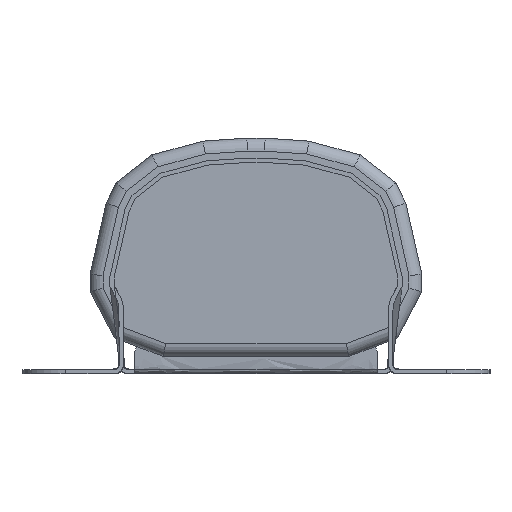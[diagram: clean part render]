
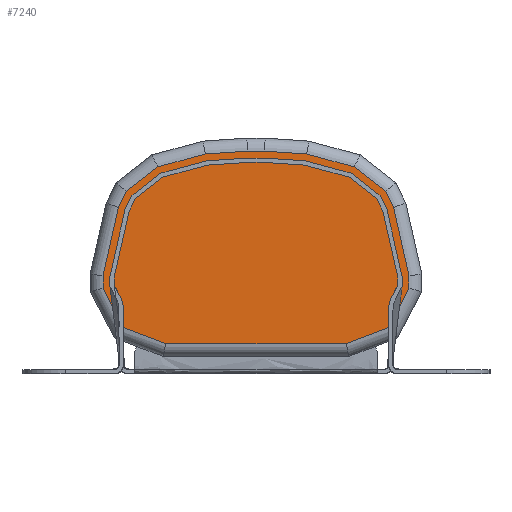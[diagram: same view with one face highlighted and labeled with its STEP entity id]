
A CAD part, left-side view. The second image highlights one B-rep face of the part: STEP entity #7240.
In plain terms, the highlighted planar face has unit normal (-1, 0, 0).
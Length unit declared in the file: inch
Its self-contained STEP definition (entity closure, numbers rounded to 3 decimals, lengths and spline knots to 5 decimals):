
#247 = CARTESIAN_POINT ( 'NONE',  ( -11.88976, -0.51143, 0.17618 ) ) ;
#277 = ORIENTED_EDGE ( 'NONE', *, *, #9996, .F. ) ;
#349 = ORIENTED_EDGE ( 'NONE', *, *, #10450, .F. ) ;
#375 = DIRECTION ( 'NONE',  ( 0., -0.965, 0.262 ) ) ;
#437 = CARTESIAN_POINT ( 'NONE',  ( -11.88976, -0.64642, 0.29602 ) ) ;
#532 = CARTESIAN_POINT ( 'NONE',  ( -11.88976, -0.69488, 0.38854 ) ) ;
#1177 = DIRECTION ( 'NONE',  ( 0., -0.22, 0.975 ) ) ;
#1185 = VERTEX_POINT ( 'NONE', #3811 ) ;
#1186 = VERTEX_POINT ( 'NONE', #11184 ) ;
#1292 = CARTESIAN_POINT ( 'NONE',  ( -11.88976, 0.64642, 0.29602 ) ) ;
#1331 = CARTESIAN_POINT ( 'NONE',  ( -11.88976, 0.65992, 0.60117 ) ) ;
#1666 = CARTESIAN_POINT ( 'NONE',  ( -11.88976, -0.34107, 0.96888 ) ) ;
#1867 = VERTEX_POINT ( 'NONE', #12075 ) ;
#1963 = LINE ( 'NONE', #8002, #14741 ) ;
#2033 = CARTESIAN_POINT ( 'NONE',  ( -11.88976, 0.58838, 0.83044 ) ) ;
#2260 = DIRECTION ( 'NONE',  ( 0., 0.464, 0.886 ) ) ;
#2353 = VECTOR ( 'NONE', #9060, 39.37008 ) ;
#2379 = ORIENTED_EDGE ( 'NONE', *, *, #11758, .F. ) ;
#2418 = ORIENTED_EDGE ( 'NONE', *, *, #14847, .F. ) ;
#2467 = EDGE_CURVE ( 'NONE', #10861, #1185, #12920, .T. ) ;
#2580 = EDGE_CURVE ( 'NONE', #1185, #5059, #14661, .T. ) ;
#2683 = DIRECTION ( 'NONE',  ( 0., 0., 1. ) ) ;
#2695 = CARTESIAN_POINT ( 'NONE',  ( -11.88976, 0.03945, 1.01181 ) ) ;
#2735 = LINE ( 'NONE', #437, #2353 ) ;
#2827 = CARTESIAN_POINT ( 'NONE',  ( -11.88976, -0.13684, 1.00524 ) ) ;
#2910 = VERTEX_POINT ( 'NONE', #5528 ) ;
#2913 = DIRECTION ( 'NONE',  ( 0., -0.965, -0.262 ) ) ;
#2917 = ORIENTED_EDGE ( 'NONE', *, *, #12073, .F. ) ;
#2964 = CARTESIAN_POINT ( 'NONE',  ( -11.88976, 0.41045, 0.1378 ) ) ;
#3042 = VECTOR ( 'NONE', #10428, 39.37008 ) ;
#3256 = CARTESIAN_POINT ( 'NONE',  ( -11.88976, 0.69488, 0.44618 ) ) ;
#3543 = EDGE_CURVE ( 'NONE', #8565, #14645, #12898, .T. ) ;
#3567 = ORIENTED_EDGE ( 'NONE', *, *, #12989, .F. ) ;
#3629 = DIRECTION ( 'NONE',  ( -1., 0., 0. ) ) ;
#3638 = VECTOR ( 'NONE', #2260, 39.37008 ) ;
#3811 = CARTESIAN_POINT ( 'NONE',  ( -11.88976, -0.23037, 0.99893 ) ) ;
#3847 = PLANE ( 'NONE',  #6024 ) ;
#3954 = VECTOR ( 'NONE', #9963, 39.37008 ) ;
#3966 = LINE ( 'NONE', #5657, #8011 ) ;
#3994 = LINE ( 'NONE', #4272, #6892 ) ;
#4092 = ORIENTED_EDGE ( 'NONE', *, *, #14752, .F. ) ;
#4272 = CARTESIAN_POINT ( 'NONE',  ( -11.88976, 0.60522, 0.79615 ) ) ;
#4274 = VECTOR ( 'NONE', #11588, 39.37008 ) ;
#4302 = DIRECTION ( 'NONE',  ( 0., -0.441, -0.898 ) ) ;
#4405 = CARTESIAN_POINT ( 'NONE',  ( -11.88976, -0.44609, 0.94037 ) ) ;
#4634 = EDGE_CURVE ( 'NONE', #14645, #13250, #10190, .T. ) ;
#4646 = LINE ( 'NONE', #6675, #4274 ) ;
#4790 = VECTOR ( 'NONE', #2913, 39.37008 ) ;
#4906 = CARTESIAN_POINT ( 'NONE',  ( -11.88976, -0.69488, 0.1378 ) ) ;
#5059 = VERTEX_POINT ( 'NONE', #4405 ) ;
#5190 = ORIENTED_EDGE ( 'NONE', *, *, #8604, .F. ) ;
#5409 = VECTOR ( 'NONE', #10191, 39.37008 ) ;
#5528 = CARTESIAN_POINT ( 'NONE',  ( -11.88976, 0.44609, 0.94037 ) ) ;
#5545 = EDGE_CURVE ( 'NONE', #13250, #13120, #14219, .T. ) ;
#5548 = VECTOR ( 'NONE', #1177, 39.37008 ) ;
#5657 = CARTESIAN_POINT ( 'NONE',  ( -11.88976, 0.51801, 0.8848 ) ) ;
#5675 = CARTESIAN_POINT ( 'NONE',  ( -11.88976, -0.69488, 0.41339 ) ) ;
#5961 = CARTESIAN_POINT ( 'NONE',  ( -11.88976, 0., 1.01181 ) ) ;
#6024 = AXIS2_PLACEMENT_3D ( 'NONE', #4906, #3629, #2683 ) ;
#6423 = ORIENTED_EDGE ( 'NONE', *, *, #7326, .F. ) ;
#6675 = CARTESIAN_POINT ( 'NONE',  ( -11.88976, 0., 0.1378 ) ) ;
#6720 = FACE_OUTER_BOUND ( 'NONE', #15620, .T. ) ;
#6892 = VECTOR ( 'NONE', #12902, 39.37008 ) ;
#6914 = VERTEX_POINT ( 'NONE', #15876 ) ;
#6929 = DIRECTION ( 'NONE',  ( 0., 0., -1. ) ) ;
#7027 = VECTOR ( 'NONE', #6929, 39.37008 ) ;
#7228 = LINE ( 'NONE', #7491, #3954 ) ;
#7240 = ADVANCED_FACE ( 'NONE', ( #6720 ), #3847, .T. ) ;
#7326 = EDGE_CURVE ( 'NONE', #13120, #1186, #15418, .T. ) ;
#7366 = ORIENTED_EDGE ( 'NONE', *, *, #4634, .F. ) ;
#7429 = LINE ( 'NONE', #5675, #7027 ) ;
#7443 = EDGE_CURVE ( 'NONE', #5059, #11408, #10971, .T. ) ;
#7448 = VECTOR ( 'NONE', #4302, 39.37008 ) ;
#7491 = CARTESIAN_POINT ( 'NONE',  ( -11.88976, -0.65992, 0.60117 ) ) ;
#7663 = VECTOR ( 'NONE', #8305, 39.37008 ) ;
#7817 = ORIENTED_EDGE ( 'NONE', *, *, #5545, .F. ) ;
#8002 = CARTESIAN_POINT ( 'NONE',  ( -11.88976, 0.13684, 1.00524 ) ) ;
#8011 = VECTOR ( 'NONE', #10641, 39.37008 ) ;
#8305 = DIRECTION ( 'NONE',  ( 0., 0., 1. ) ) ;
#8480 = VERTEX_POINT ( 'NONE', #2695 ) ;
#8550 = ORIENTED_EDGE ( 'NONE', *, *, #3543, .F. ) ;
#8559 = VECTOR ( 'NONE', #13378, 39.37008 ) ;
#8565 = VERTEX_POINT ( 'NONE', #2964 ) ;
#8593 = VERTEX_POINT ( 'NONE', #532 ) ;
#8604 = EDGE_CURVE ( 'NONE', #1186, #9486, #3994, .T. ) ;
#8941 = LINE ( 'NONE', #5961, #8559 ) ;
#8952 = CARTESIAN_POINT ( 'NONE',  ( -11.88976, 0.69488, 0.41339 ) ) ;
#9060 = DIRECTION ( 'NONE',  ( 0., 0.464, -0.886 ) ) ;
#9486 = VERTEX_POINT ( 'NONE', #2033 ) ;
#9627 = VECTOR ( 'NONE', #10590, 39.37008 ) ;
#9628 = ORIENTED_EDGE ( 'NONE', *, *, #13056, .F. ) ;
#9697 = CARTESIAN_POINT ( 'NONE',  ( -11.88976, -0.51801, 0.8848 ) ) ;
#9721 = CARTESIAN_POINT ( 'NONE',  ( -11.88976, -0.03944, 1.01181 ) ) ;
#9963 = DIRECTION ( 'NONE',  ( 0., -0.22, -0.975 ) ) ;
#9996 = EDGE_CURVE ( 'NONE', #11408, #14547, #13631, .T. ) ;
#10190 = LINE ( 'NONE', #1292, #3638 ) ;
#10191 = DIRECTION ( 'NONE',  ( 0., 0.935, -0.355 ) ) ;
#10384 = ORIENTED_EDGE ( 'NONE', *, *, #2580, .F. ) ;
#10428 = DIRECTION ( 'NONE',  ( 0., 0.935, 0.355 ) ) ;
#10450 = EDGE_CURVE ( 'NONE', #2910, #12607, #11875, .T. ) ;
#10590 = DIRECTION ( 'NONE',  ( 0., -0.998, -0.067 ) ) ;
#10641 = DIRECTION ( 'NONE',  ( 0., -0.791, 0.611 ) ) ;
#10792 = CARTESIAN_POINT ( 'NONE',  ( -11.88976, 0.51143, 0.17618 ) ) ;
#10861 = VERTEX_POINT ( 'NONE', #9721 ) ;
#10892 = DIRECTION ( 'NONE',  ( 0., -0.791, -0.611 ) ) ;
#10971 = LINE ( 'NONE', #9697, #13869 ) ;
#11184 = CARTESIAN_POINT ( 'NONE',  ( -11.88976, 0.62503, 0.75579 ) ) ;
#11194 = EDGE_CURVE ( 'NONE', #9486, #2910, #3966, .T. ) ;
#11408 = VERTEX_POINT ( 'NONE', #13711 ) ;
#11473 = VECTOR ( 'NONE', #375, 39.37008 ) ;
#11511 = CARTESIAN_POINT ( 'NONE',  ( -11.88976, 0.34107, 0.96888 ) ) ;
#11524 = CARTESIAN_POINT ( 'NONE',  ( -11.88976, 0.60161, 0.21046 ) ) ;
#11588 = DIRECTION ( 'NONE',  ( 0., 1., 0. ) ) ;
#11697 = CARTESIAN_POINT ( 'NONE',  ( -11.88976, -0.60522, 0.79615 ) ) ;
#11758 = EDGE_CURVE ( 'NONE', #14547, #1867, #7228, .T. ) ;
#11875 = LINE ( 'NONE', #11511, #11473 ) ;
#11876 = VERTEX_POINT ( 'NONE', #13846 ) ;
#12002 = LINE ( 'NONE', #247, #5409 ) ;
#12031 = ORIENTED_EDGE ( 'NONE', *, *, #15095, .F. ) ;
#12073 = EDGE_CURVE ( 'NONE', #1867, #8593, #7429, .T. ) ;
#12075 = CARTESIAN_POINT ( 'NONE',  ( -11.88976, -0.69488, 0.44618 ) ) ;
#12607 = VERTEX_POINT ( 'NONE', #14402 ) ;
#12898 = LINE ( 'NONE', #10792, #3042 ) ;
#12902 = DIRECTION ( 'NONE',  ( 0., -0.441, 0.898 ) ) ;
#12920 = LINE ( 'NONE', #2827, #9627 ) ;
#12989 = EDGE_CURVE ( 'NONE', #8593, #11876, #2735, .T. ) ;
#13056 = EDGE_CURVE ( 'NONE', #12607, #8480, #1963, .T. ) ;
#13108 = ORIENTED_EDGE ( 'NONE', *, *, #2467, .F. ) ;
#13120 = VERTEX_POINT ( 'NONE', #3256 ) ;
#13250 = VERTEX_POINT ( 'NONE', #13350 ) ;
#13350 = CARTESIAN_POINT ( 'NONE',  ( -11.88976, 0.69488, 0.38854 ) ) ;
#13378 = DIRECTION ( 'NONE',  ( 0., -1., 0. ) ) ;
#13631 = LINE ( 'NONE', #11697, #7448 ) ;
#13711 = CARTESIAN_POINT ( 'NONE',  ( -11.88976, -0.58838, 0.83044 ) ) ;
#13740 = CARTESIAN_POINT ( 'NONE',  ( -11.88976, -0.62503, 0.75579 ) ) ;
#13846 = CARTESIAN_POINT ( 'NONE',  ( -11.88976, -0.60161, 0.21046 ) ) ;
#13869 = VECTOR ( 'NONE', #10892, 39.37008 ) ;
#14219 = LINE ( 'NONE', #8952, #7663 ) ;
#14402 = CARTESIAN_POINT ( 'NONE',  ( -11.88976, 0.23037, 0.99893 ) ) ;
#14547 = VERTEX_POINT ( 'NONE', #13740 ) ;
#14573 = ORIENTED_EDGE ( 'NONE', *, *, #11194, .F. ) ;
#14645 = VERTEX_POINT ( 'NONE', #11524 ) ;
#14661 = LINE ( 'NONE', #1666, #4790 ) ;
#14741 = VECTOR ( 'NONE', #15395, 39.37008 ) ;
#14752 = EDGE_CURVE ( 'NONE', #11876, #6914, #12002, .T. ) ;
#14847 = EDGE_CURVE ( 'NONE', #6914, #8565, #4646, .T. ) ;
#14924 = ORIENTED_EDGE ( 'NONE', *, *, #7443, .F. ) ;
#15095 = EDGE_CURVE ( 'NONE', #8480, #10861, #8941, .T. ) ;
#15395 = DIRECTION ( 'NONE',  ( 0., -0.998, 0.067 ) ) ;
#15418 = LINE ( 'NONE', #1331, #5548 ) ;
#15620 = EDGE_LOOP ( 'NONE', ( #8550, #2418, #4092, #3567, #2917, #2379, #277, #14924, #10384, #13108, #12031, #9628, #349, #14573, #5190, #6423, #7817, #7366 ) ) ;
#15876 = CARTESIAN_POINT ( 'NONE',  ( -11.88976, -0.41045, 0.1378 ) ) ;
